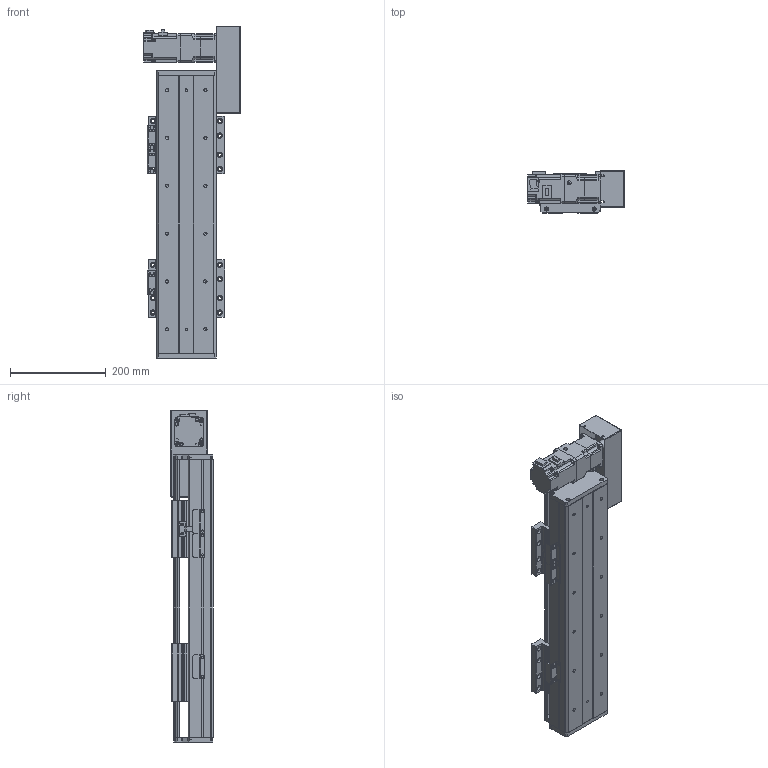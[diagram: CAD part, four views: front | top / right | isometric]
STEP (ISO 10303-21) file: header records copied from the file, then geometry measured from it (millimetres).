
FILE_DESCRIPTION(/* description */ (''),/* implementation_level */ '2;1');
FILE_NAME(/* name */ 'C:\Users\PC\Desktop\3D도면\STEP\STEP\DSB125-R2G-W0300-L.stp',/* time_stamp */ '2018-06-13T14:03:44+09:00',/* author */ ('PC'),/* organization */ (''),/* preprocessor_version */ 'ST-DEVELOPER v16.5',/* originating_system */ 'Autodesk Inventor 2017',/* authorisation */ '');
FILE_SCHEMA (('AUTOMOTIVE_DESIGN { 1 0 10303 214 3 1 1 }'));
Length unit declared in the file: millimetre
Products named in the file (12): DSB125-L2G-W0300-R_MIR; DSB125-BASE_MIR; DSB125-FRONT COVER_MIR; DSB125-REAR COVER_MIR; DSB125-UP COVER_MIR; DSB125-TABLE(MSB15S)_MIR; hg-kr23__MIR; ab0601-p0401200402_MIR; 13-BELT COVER_MIR; DSR125-SENSOR DOG_MIR; pm-y65_step_MIR; SENSOR BRACKET(EE-SX674A)_MIR
Assembly tree (16 placements, depth 2):
  DSB125-L2G-W0300-R_MIR
    DSB125-BASE_MIR
    DSB125-FRONT COVER_MIR
    DSB125-REAR COVER_MIR
    DSB125-UP COVER_MIR
    DSB125-TABLE(MSB15S)_MIR  x2
    hg-kr23__MIR
    ab0601-p0401200402_MIR
    13-BELT COVER_MIR
    DSR125-SENSOR DOG_MIR
    pm-y65_step_MIR  x3
    SENSOR BRACKET(EE-SX674A)_MIR  x3
Bounding box: 202.1 x 88 x 694 mm (x, y, z)
Volume: 2855265.7 mm3; surface area: 826470.7 mm2
Topology: 17 solids, 17 shells, 1635 faces, 4440 edges, 2930 vertices
Faces by surface type: plane 903, cylinder 618, cone 102, sphere 8, torus 4
Full cylindrical faces by diameter (mm): 2.459 x20, 3.242 x16, 3.5 x6, 4 x1, 4.134 x16, 4.2 x4, 4.3 x1, 4.5 x50, 4.917 x20, 5 x22, 5.3 x1, 5.5 x4, 5.6 x8, 5.8 x4, 5.9 x8, 6 x4, 6.6 x22, 6.647 x12, 7.5 x32, 8.5 x8, 8.7 x1, 11 x22, 14 x1, 16 x2, 17 x1, 20 x1, 47 x1, 50 x3
Entity records: 35465 total; most frequent: CARTESIAN_POINT 6411, DIRECTION 6010, ORIENTED_EDGE 5426, EDGE_CURVE 2713, AXIS2_PLACEMENT_3D 2193, VERTEX_POINT 1922, LINE 1624, VECTOR 1624
